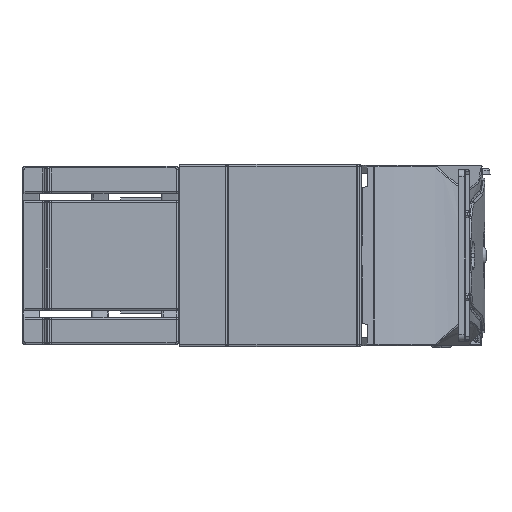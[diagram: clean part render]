
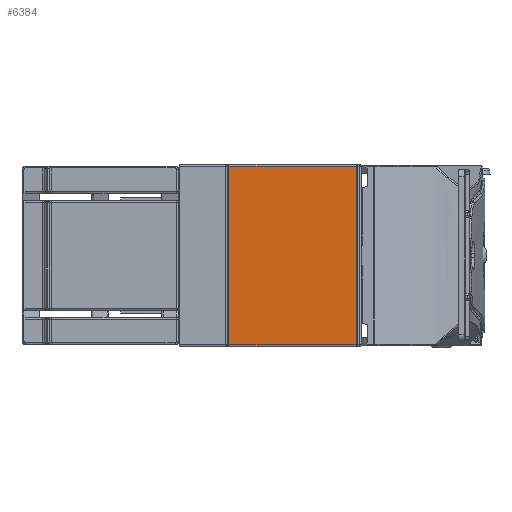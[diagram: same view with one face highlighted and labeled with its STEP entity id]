
A CAD part, front view. The second image highlights one B-rep face of the part: STEP entity #6384.
In plain terms, the highlighted planar face has unit normal (0, -1, 0).
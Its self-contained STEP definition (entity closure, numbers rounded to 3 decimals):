
#5063=PLANE('',#48811);
#6384=ADVANCED_FACE('',(#9809),#5063,.F.);
#9809=FACE_OUTER_BOUND('',#12458,.T.);
#12458=EDGE_LOOP('',(#24641,#24642,#24643,#24644));
#16110=LINE('',#70995,#19222);
#16118=LINE('',#71019,#19230);
#16119=LINE('',#71021,#19231);
#16120=LINE('',#71023,#19232);
#19222=VECTOR('',#55298,1.);
#19230=VECTOR('',#55322,1.);
#19231=VECTOR('',#55323,1.);
#19232=VECTOR('',#55324,1.);
#24641=ORIENTED_EDGE('',*,*,#41272,.T.);
#24642=ORIENTED_EDGE('',*,*,#41273,.T.);
#24643=ORIENTED_EDGE('',*,*,#41274,.T.);
#24644=ORIENTED_EDGE('',*,*,#41260,.T.);
#36438=VERTEX_POINT('',#70996);
#36439=VERTEX_POINT('',#70997);
#36446=VERTEX_POINT('',#71020);
#36447=VERTEX_POINT('',#71022);
#41260=EDGE_CURVE('',#36438,#36439,#16110,.T.);
#41272=EDGE_CURVE('',#36439,#36446,#16118,.T.);
#41273=EDGE_CURVE('',#36446,#36447,#16119,.T.);
#41274=EDGE_CURVE('',#36447,#36438,#16120,.T.);
#48811=AXIS2_PLACEMENT_3D('',#71024,#55325,#55326);
#55298=DIRECTION('',(0.,0.,-1.));
#55322=DIRECTION('',(1.,0.,0.));
#55323=DIRECTION('',(0.,0.,1.));
#55324=DIRECTION('',(-1.,0.,0.));
#55325=DIRECTION('',(0.,1.,0.));
#55326=DIRECTION('',(0.,0.,-1.));
#70995=CARTESIAN_POINT('',(15.5,-194.,-50.267));
#70996=CARTESIAN_POINT('',(15.5,-194.,-0.5));
#70997=CARTESIAN_POINT('',(15.5,-194.,-52.5));
#71019=CARTESIAN_POINT('',(54.,-194.,-52.5));
#71020=CARTESIAN_POINT('',(52.5,-194.,-52.5));
#71021=CARTESIAN_POINT('',(52.5,-194.,0.));
#71022=CARTESIAN_POINT('',(52.5,-194.,-0.5));
#71023=CARTESIAN_POINT('',(54.,-194.,-0.5));
#71024=CARTESIAN_POINT('',(54.,-194.,0.));
